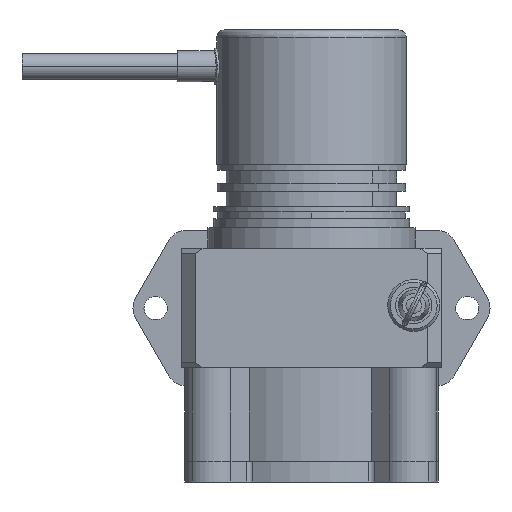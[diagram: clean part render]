
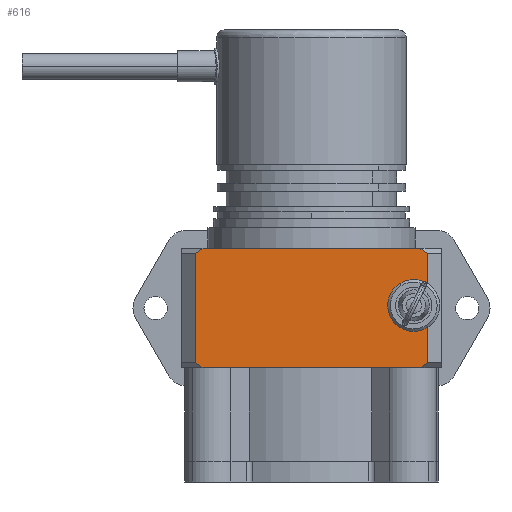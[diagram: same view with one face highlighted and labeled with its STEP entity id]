
A CAD part, front view. The second image highlights one B-rep face of the part: STEP entity #616.
In plain terms, the highlighted planar face has unit normal (0, -1, 0).
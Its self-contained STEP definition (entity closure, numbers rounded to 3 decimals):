
#146 = VERTEX_POINT ( 'NONE', #4317 ) ;
#148 = EDGE_CURVE ( 'NONE', #146, #264, #4316, .T. ) ;
#264 = VERTEX_POINT ( 'NONE', #4788 ) ;
#444 = EDGE_CURVE ( 'NONE', #445, #574, #5511, .T. ) ;
#445 = VERTEX_POINT ( 'NONE', #5503 ) ;
#452 = ORIENTED_EDGE ( 'NONE', *, *, #573, .T. ) ;
#453 = ORIENTED_EDGE ( 'NONE', *, *, #480, .T. ) ;
#480 = EDGE_CURVE ( 'NONE', #571, #481, #5658, .T. ) ;
#481 = VERTEX_POINT ( 'NONE', #5654 ) ;
#482 = ORIENTED_EDGE ( 'NONE', *, *, #483, .F. ) ;
#483 = EDGE_CURVE ( 'NONE', #484, #481, #5612, .T. ) ;
#484 = VERTEX_POINT ( 'NONE', #5608 ) ;
#485 = ORIENTED_EDGE ( 'NONE', *, *, #486, .T. ) ;
#486 = EDGE_CURVE ( 'NONE', #484, #587, #5637, .T. ) ;
#487 = ORIENTED_EDGE ( 'NONE', *, *, #537, .T. ) ;
#488 = ORIENTED_EDGE ( 'NONE', *, *, #597, .T. ) ;
#489 = ORIENTED_EDGE ( 'NONE', *, *, #490, .F. ) ;
#490 = EDGE_CURVE ( 'NONE', #445, #595, #5633, .T. ) ;
#491 = ORIENTED_EDGE ( 'NONE', *, *, #444, .T. ) ;
#537 = EDGE_CURVE ( 'NONE', #587, #588, #5646, .T. ) ;
#571 = VERTEX_POINT ( 'NONE', #5805 ) ;
#573 = EDGE_CURVE ( 'NONE', #574, #571, #5804, .T. ) ;
#574 = VERTEX_POINT ( 'NONE', #5974 ) ;
#587 = VERTEX_POINT ( 'NONE', #5852 ) ;
#588 = VERTEX_POINT ( 'NONE', #5851 ) ;
#595 = VERTEX_POINT ( 'NONE', #5834 ) ;
#597 = EDGE_CURVE ( 'NONE', #588, #595, #5833, .T. ) ;
#616 = ADVANCED_FACE ( 'NONE', ( #5933, #5932 ), #6109, .T. ) ;
#617 = EDGE_LOOP ( 'NONE', ( #618, #620 ) ) ;
#618 = ORIENTED_EDGE ( 'NONE', *, *, #619, .F. ) ;
#619 = EDGE_CURVE ( 'NONE', #264, #146, #6105, .T. ) ;
#620 = ORIENTED_EDGE ( 'NONE', *, *, #148, .F. ) ;
#621 = EDGE_LOOP ( 'NONE', ( #452, #453, #482, #485, #487, #488, #489, #491 ) ) ;
#4312 = DIRECTION ( 'NONE',  ( 0., 0., -1. ) ) ;
#4313 = DIRECTION ( 'NONE',  ( 0., -1., 0. ) ) ;
#4314 = CARTESIAN_POINT ( 'NONE',  ( 19.7, -25., 8. ) ) ;
#4315 = AXIS2_PLACEMENT_3D ( 'NONE', #4314, #4313, #4312 ) ;
#4316 = CIRCLE ( 'NONE', #4315, 1.632 ) ;
#4317 = CARTESIAN_POINT ( 'NONE',  ( 19.7, -25., 9.632 ) ) ;
#4788 = CARTESIAN_POINT ( 'NONE',  ( 19.7, -25., 6.368 ) ) ;
#5503 = CARTESIAN_POINT ( 'NONE',  ( -20.886, -25., 19. ) ) ;
#5504 = DIRECTION ( 'NONE',  ( -0.816, 0., -0.577 ) ) ;
#5505 = VECTOR ( 'NONE', #5504, 1000. ) ;
#5506 = CARTESIAN_POINT ( 'NONE',  ( -20.886, -25., 19. ) ) ;
#5511 = LINE ( 'NONE', #5506, #5505 ) ;
#5608 = CARTESIAN_POINT ( 'NONE',  ( 20.886, -25., -4. ) ) ;
#5609 = DIRECTION ( 'NONE',  ( -1., 0., 0. ) ) ;
#5610 = VECTOR ( 'NONE', #5609, 1000. ) ;
#5611 = CARTESIAN_POINT ( 'NONE',  ( 22.3, -25., -4. ) ) ;
#5612 = LINE ( 'NONE', #5611, #5610 ) ;
#5630 = DIRECTION ( 'NONE',  ( 1., 0., 0. ) ) ;
#5631 = VECTOR ( 'NONE', #5630, 1000. ) ;
#5632 = CARTESIAN_POINT ( 'NONE',  ( 0., -25., 19. ) ) ;
#5633 = LINE ( 'NONE', #5632, #5631 ) ;
#5634 = DIRECTION ( 'NONE',  ( 0.816, 0., 0.577 ) ) ;
#5635 = VECTOR ( 'NONE', #5634, 1000. ) ;
#5636 = CARTESIAN_POINT ( 'NONE',  ( 2.938, -25., -16.691 ) ) ;
#5637 = LINE ( 'NONE', #5636, #5635 ) ;
#5638 = DIRECTION ( 'NONE',  ( 0., 0., 1. ) ) ;
#5639 = VECTOR ( 'NONE', #5638, 1000. ) ;
#5640 = CARTESIAN_POINT ( 'NONE',  ( 22.3, -25., 9.5 ) ) ;
#5646 = LINE ( 'NONE', #5640, #5639 ) ;
#5654 = CARTESIAN_POINT ( 'NONE',  ( -20.886, -25., -4. ) ) ;
#5655 = DIRECTION ( 'NONE',  ( 0.816, 0., -0.577 ) ) ;
#5656 = VECTOR ( 'NONE', #5655, 1000. ) ;
#5657 = CARTESIAN_POINT ( 'NONE',  ( -32.671, -25., 4.333 ) ) ;
#5658 = LINE ( 'NONE', #5657, #5656 ) ;
#5802 = VECTOR ( 'NONE', #5975, 1000. ) ;
#5803 = CARTESIAN_POINT ( 'NONE',  ( -22.3, -25., 9.5 ) ) ;
#5804 = LINE ( 'NONE', #5803, #5802 ) ;
#5805 = CARTESIAN_POINT ( 'NONE',  ( -22.3, -25., -3. ) ) ;
#5830 = DIRECTION ( 'NONE',  ( -0.816, 0., 0.577 ) ) ;
#5831 = VECTOR ( 'NONE', #5830, 1000. ) ;
#5832 = CARTESIAN_POINT ( 'NONE',  ( 22.3, -25., 18. ) ) ;
#5833 = LINE ( 'NONE', #5832, #5831 ) ;
#5834 = CARTESIAN_POINT ( 'NONE',  ( 20.886, -25., 19. ) ) ;
#5851 = CARTESIAN_POINT ( 'NONE',  ( 22.3, -25., 18. ) ) ;
#5852 = CARTESIAN_POINT ( 'NONE',  ( 22.3, -25., -3. ) ) ;
#5932 = FACE_OUTER_BOUND ( 'NONE', #621, .T. ) ;
#5933 = FACE_BOUND ( 'NONE', #617, .T. ) ;
#5974 = CARTESIAN_POINT ( 'NONE',  ( -22.3, -25., 18. ) ) ;
#5975 = DIRECTION ( 'NONE',  ( 0., 0., -1. ) ) ;
#6008 = DIRECTION ( 'NONE',  ( 0., 0., -1. ) ) ;
#6087 = DIRECTION ( 'NONE',  ( 0., 0., -1. ) ) ;
#6088 = DIRECTION ( 'NONE',  ( 0., -1., 0. ) ) ;
#6103 = CARTESIAN_POINT ( 'NONE',  ( 19.7, -25., 8. ) ) ;
#6104 = AXIS2_PLACEMENT_3D ( 'NONE', #6103, #6088, #6087 ) ;
#6105 = CIRCLE ( 'NONE', #6104, 1.632 ) ;
#6106 = DIRECTION ( 'NONE',  ( 0., -1., 0. ) ) ;
#6107 = CARTESIAN_POINT ( 'NONE',  ( -22.3, -25., 19. ) ) ;
#6108 = AXIS2_PLACEMENT_3D ( 'NONE', #6107, #6106, #6008 ) ;
#6109 = PLANE ( 'NONE',  #6108 ) ;
